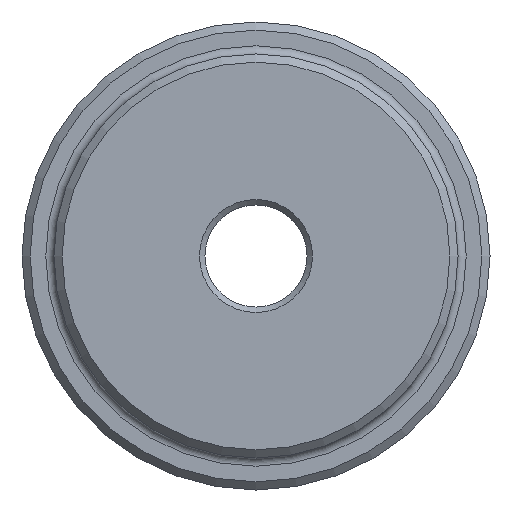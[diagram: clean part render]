
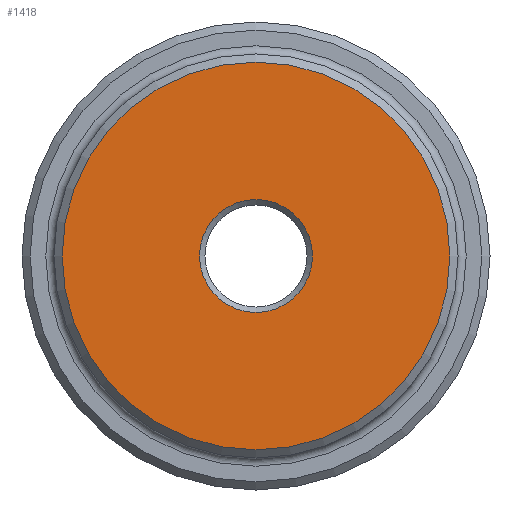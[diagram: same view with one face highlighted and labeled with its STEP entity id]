
A CAD part, left-side view. The second image highlights one B-rep face of the part: STEP entity #1418.
In plain terms, the highlighted planar face has unit normal (-1, 0, 0).
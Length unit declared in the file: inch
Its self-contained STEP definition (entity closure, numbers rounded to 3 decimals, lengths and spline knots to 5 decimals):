
#183 = DIRECTION ( 'NONE',  ( 1., 0., 0. ) ) ;
#255 = CARTESIAN_POINT ( 'NONE',  ( 0., 0., -1.425 ) ) ;
#279 = CIRCLE ( 'NONE', #826, 0.41515 ) ;
#308 = DIRECTION ( 'NONE',  ( 0., 0., -1. ) ) ;
#386 = PLANE ( 'NONE',  #1177 ) ;
#416 = DIRECTION ( 'NONE',  ( -1., 0., 0. ) ) ;
#424 = EDGE_CURVE ( 'NONE', #576, #576, #279, .T. ) ;
#530 = CARTESIAN_POINT ( 'NONE',  ( 0., 0., 0. ) ) ;
#576 = VERTEX_POINT ( 'NONE', #970 ) ;
#752 = DIRECTION ( 'NONE',  ( 1., 0., 0. ) ) ;
#826 = AXIS2_PLACEMENT_3D ( 'NONE', #1170, #752, #1771 ) ;
#888 = FACE_OUTER_BOUND ( 'NONE', #1335, .T. ) ;
#945 = ORIENTED_EDGE ( 'NONE', *, *, #1394, .T. ) ;
#952 = DIRECTION ( 'NONE',  ( 0., 0., -1. ) ) ;
#970 = CARTESIAN_POINT ( 'NONE',  ( 0., 0., -0.41515 ) ) ;
#1059 = EDGE_LOOP ( 'NONE', ( #1831 ) ) ;
#1170 = CARTESIAN_POINT ( 'NONE',  ( 0., 0., 0. ) ) ;
#1177 = AXIS2_PLACEMENT_3D ( 'NONE', #530, #183, #952 ) ;
#1335 = EDGE_LOOP ( 'NONE', ( #945 ) ) ;
#1364 = CIRCLE ( 'NONE', #1475, 1.425 ) ;
#1394 = EDGE_CURVE ( 'NONE', #1687, #1687, #1364, .T. ) ;
#1418 = ADVANCED_FACE ( 'NONE', ( #1467, #888 ), #386, .F. ) ;
#1467 = FACE_BOUND ( 'NONE', #1059, .T. ) ;
#1475 = AXIS2_PLACEMENT_3D ( 'NONE', #1504, #416, #308 ) ;
#1504 = CARTESIAN_POINT ( 'NONE',  ( 0., 0., 0. ) ) ;
#1687 = VERTEX_POINT ( 'NONE', #255 ) ;
#1771 = DIRECTION ( 'NONE',  ( 0., 0., -1. ) ) ;
#1831 = ORIENTED_EDGE ( 'NONE', *, *, #424, .T. ) ;
